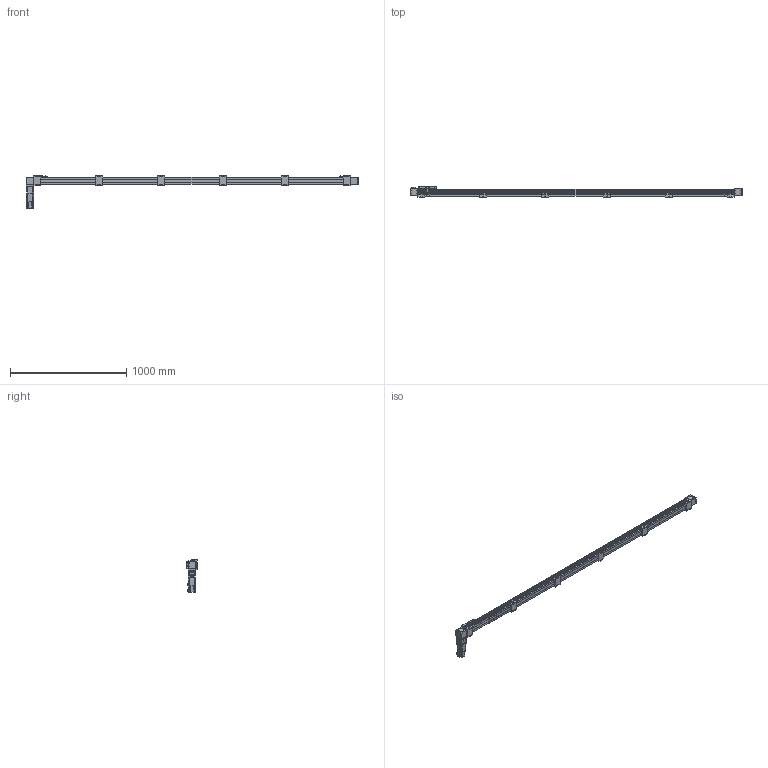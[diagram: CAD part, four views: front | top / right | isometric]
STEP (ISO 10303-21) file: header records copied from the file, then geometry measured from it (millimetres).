
FILE_DESCRIPTION(/* description */ ('STEP AP214'),/* implementation_level */ '2;1');
FILE_NAME(/* name */ 'SK60-P13-S2550-BR-T40-C1-N(0)',/* time_stamp */ '2023-04-06T04:03:09+02:00',/* author */ ('License CC BY-ND 4.0'),/* organization */ ('CADENAS'),/* preprocessor_version */ 'ST-DEVELOPER v19.3',/* originating_system */ 'PARTsolutions',/* authorisation */ ' ');
FILE_SCHEMA (('AUTOMOTIVE_DESIGN {1 0 10303 214 3 1 1}'));
Length unit declared in the file: millimetre
Products named in the file (11): SK60-P13-S2550-BR-T40-C1-N(0); PSC140-sensor; SK60-S450_seat; SK60-S450-BL-C1_slider; SK60_body3; SK60_body6; SK60-BL_body2; T40-p1; SK60_body5; SK60_body4; SK60-S2550-BR-C1_body
Assembly tree (21 placements, depth 2):
  SK60-P13-S2550-BR-T40-C1-N(0)
    PSC140-sensor  x3
    SK60-S450_seat  x6
    SK60-S450-BL-C1_slider
    SK60_body3  x3
    SK60_body6  x2
    SK60-BL_body2  x2
    T40-p1
    SK60_body5
    SK60_body4
    SK60-S2550-BR-C1_body
Bounding box: 2850 x 90 x 279.1 mm (x, y, z)
Volume: 10319979.9 mm3; surface area: 1265073.6 mm2
Topology: 21 solids, 25 shells, 1010 faces, 2501 edges, 1650 vertices
Faces by surface type: plane 640, cylinder 330, cone 38, torus 2
Full cylindrical faces by diameter (mm): 2.8 x3, 3.3 x4, 4.2 x8, 4.5 x26, 4.6 x3, 4.917 x32, 5 x2, 5.478 x4, 5.5 x35, 6.5 x12, 8 x4, 8.5 x4, 9.988 x4, 10 x24, 13.556 x1, 14 x1, 14.586 x1, 19.692 x1, 38.432 x2, 43 x1, 44 x3, 47 x2, 50 x2
Entity records: 19403 total; most frequent: DIRECTION 3300, CARTESIAN_POINT 3293, ORIENTED_EDGE 3050, EDGE_CURVE 1525, AXIS2_PLACEMENT_3D 1104, LINE 1092, VECTOR 1092, VERTEX_POINT 1077
